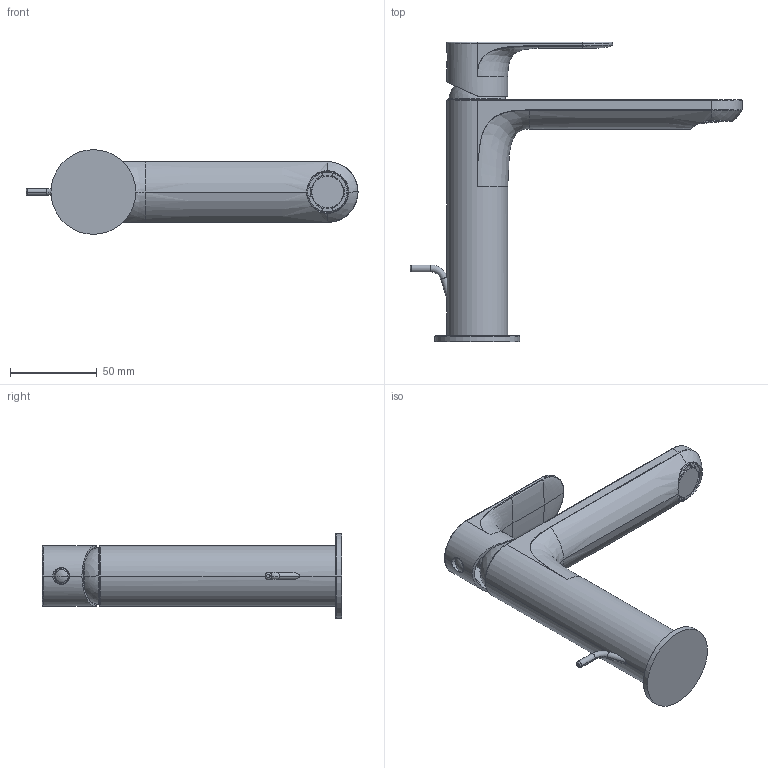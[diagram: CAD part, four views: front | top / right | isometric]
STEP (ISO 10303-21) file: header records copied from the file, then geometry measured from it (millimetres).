
FILE_DESCRIPTION((''),'2;1');
FILE_NAME('64054_SW0001','2020-06-04T13:41:50',('volponeff'),(''),'CREO PARAMETRIC BY PTC INC, 2018100','CREO PARAMETRIC BY PTC INC, 2018100','');
FILE_SCHEMA(('CONFIG_CONTROL_DESIGN'));
Length unit declared in the file: millimetre
Products named in the file (1): 64054_SW0001
Bounding box: 191.28 x 172.5 x 48.8 mm (x, y, z)
Volume: 111216.6 mm3; surface area: 70505 mm2
Topology: 1 solids, 1 shells, 437 faces, 1092 edges, 656 vertices
Faces by surface type: cylinder 134, plane 106, bspline 88, torus 55, cone 35, sphere 11, extrusion 8
Entity records: 21489 total; most frequent: CARTESIAN_POINT 11671, ORIENTED_EDGE 2162, DIRECTION 1929, EDGE_CURVE 1081, AXIS2_PLACEMENT_3D 786, VERTEX_POINT 656, EDGE_LOOP 457, CIRCLE 445
